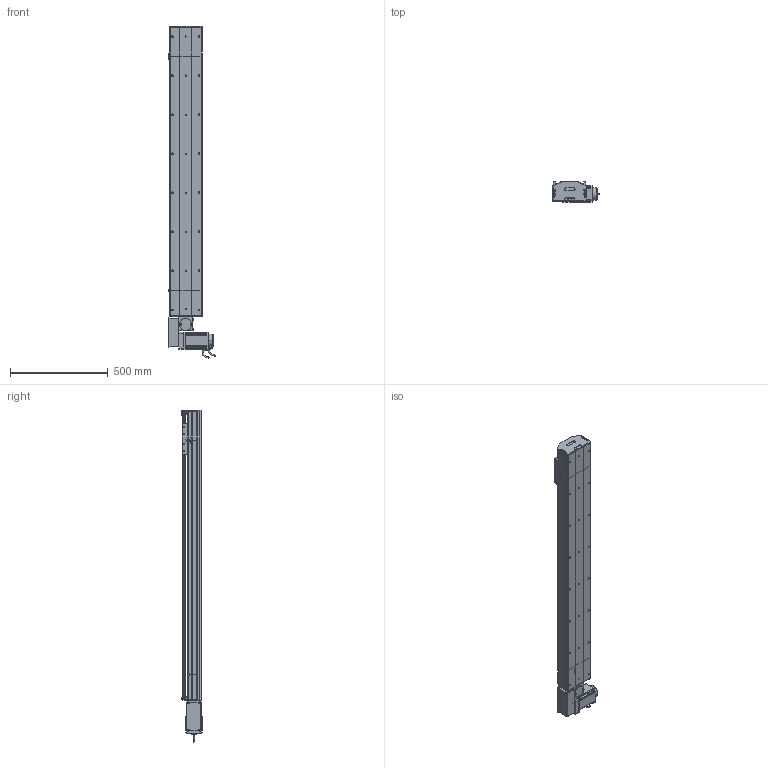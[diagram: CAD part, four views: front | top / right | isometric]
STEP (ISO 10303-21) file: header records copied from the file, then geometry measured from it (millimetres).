
FILE_DESCRIPTION (( 'STEP AP214' ), '1' );
FILE_NAME ('D17 TBH RH S1200.STEP', '2010-06-30T07:56:08', ( 'Christophe Gaillard' ), ( 'SGA' ), 'SwSTEP 2.0', 'SolidWorks 2010', '' );
FILE_SCHEMA (( 'AUTOMOTIVE_DESIGN' ));
Length unit declared in the file: millimetre
Products named in the file (40): D17 TBH RH S1200; course 1200 D17B_Default; Vis M5 L16-2_Default; vis M5 L70_Default; corp D17B 1200_Default; Couroie+ rail D17 Course 200 ; vis M5 L16_Default; Plaque racord D17_Default; couvercle D17B course L1200_Default; Conecteur_Default; Conecteur2_Default; codeur 90BLDC125-640; Head RH D17B_Default; plaque de  bout head D17B RH_Default; couvercle D17B head_Default; corpl head D17 _Default; avant 90BLDC125A-640; Moteur motionking 90BLDC125A-640; couroie head D17_Default; corps 90BLDC125A-640; Arbre+rail head D17B; poulie head_Default; vis M5 L5_Default; cache D17_Default; vis M5 L12_Default; guide D17; Chariot D17; chariot D17S_Default; vis M5 L25_Default; vis M5 L8 90°_Default; couvercle D17B_Default; Couroie tail D17B_Default; poulie tail_Default; corpl tail D17B_Default; Tail D17B_Default; Renvoi RH_Default; plaque de  bout tail D17B_Default; Rail D17B; tete d''axe poulie D17B; cache arbre D17_Default
Assembly tree (70 placements, depth 4):
  D17 TBH RH S1200
    Head RH D17B_Default
      cache arbre D17_Default
      vis M5 L12_Default  x8
      vis M5 L70_Default  x4
      Vis M5 L16-2_Default  x4
      vis M5 L5_Default  x4
      cache D17_Default  x2
      Arbre+rail head D17B
      corpl head D17 _Default
      Renvoi RH_Default
      Moteur motionking 90BLDC125A-640
        codeur 90BLDC125-640
        Conecteur_Default
        corps 90BLDC125A-640
        Conecteur2_Default
        avant 90BLDC125A-640
      poulie head_Default
      vis M5 L25_Default  x2
      plaque de  bout head D17B RH_Default
      vis M5 L16_Default  x2
      couroie head D17_Default
      couvercle D17B head_Default
      Plaque racord D17_Default
    course 1200 D17B_Default
      couvercle D17B course L1200_Default
      corp D17B 1200_Default
      Couroie+ rail D17 Course 200 
    chariot D17S_Default
      vis M5 L12_Default  x4
      guide D17  x2
      Chariot D17
    Tail D17B_Default
      vis M5 L12_Default  x4
      vis M5 L8 90°_Default  x2
      couvercle D17B_Default
      tete d''axe poulie D17B
      vis M5 L25_Default  x2
      plaque de  bout tail D17B_Default
      Rail D17B
      corpl tail D17B_Default
      Couroie tail D17B_Default
      poulie tail_Default
Bounding box: 245.2 x 105.65 x 1700.95 mm (x, y, z)
Volume: 10150009 mm3; surface area: 2848560.9 mm2
Topology: 94 solids, 94 shells, 2665 faces, 6689 edges, 4306 vertices
Faces by surface type: plane 1607, cylinder 745, bspline 136, cone 88, torus 85, sphere 4
Entity records: 83256 total; most frequent: CARTESIAN_POINT 24685, ORIENTED_EDGE 10150, DIRECTION 9644, EDGE_CURVE 5075, VECTOR 3406, LINE 3406, VERTEX_POINT 3330, AXIS2_PLACEMENT_3D 3119
